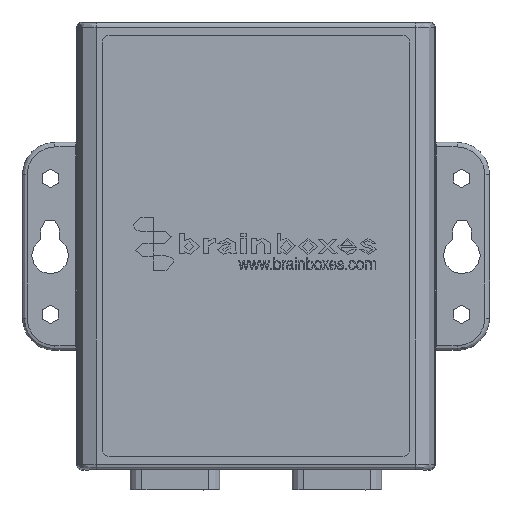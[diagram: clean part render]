
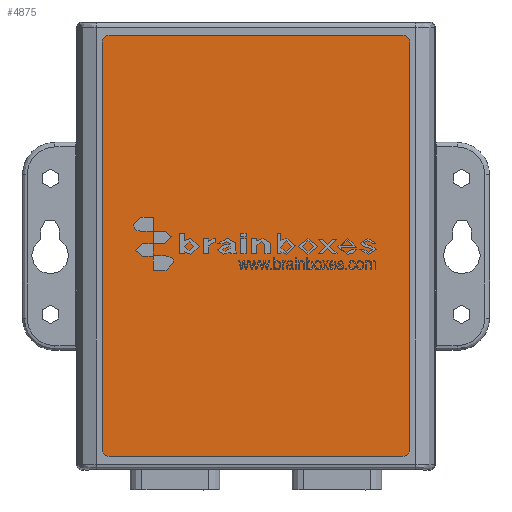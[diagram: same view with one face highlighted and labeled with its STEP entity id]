
A CAD part, top view. The second image highlights one B-rep face of the part: STEP entity #4875.
In plain terms, the highlighted planar face has unit normal (0, 0, 1) as drawn and (0, 1, 0) by its records, which use the part's own axes.
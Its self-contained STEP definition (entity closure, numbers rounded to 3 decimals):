
#4875=ADVANCED_FACE('',(#10045),#10046,.T.);
#10045=FACE_OUTER_BOUND('',#19004,.T.);
#10046=PLANE('',#19005);
#19004=EDGE_LOOP('',(#33505,#33506,#33507,#33508,#33509,#33510,#33511,#33512));
#19005=AXIS2_PLACEMENT_3D('',#33513,#33514,#33515);
#33505=ORIENTED_EDGE('',*,*,#42693,.T.);
#33506=ORIENTED_EDGE('',*,*,#42714,.T.);
#33507=ORIENTED_EDGE('',*,*,#42711,.T.);
#33508=ORIENTED_EDGE('',*,*,#42708,.T.);
#33509=ORIENTED_EDGE('',*,*,#42705,.T.);
#33510=ORIENTED_EDGE('',*,*,#42702,.T.);
#33511=ORIENTED_EDGE('',*,*,#42699,.T.);
#33512=ORIENTED_EDGE('',*,*,#42696,.T.);
#33513=CARTESIAN_POINT('',(-31.75,-0.5,44.05));
#33514=DIRECTION('',(0.0,1.0,0.0));
#33515=DIRECTION('',(1.0,0.0,-0.0));
#42693=EDGE_CURVE('',#51167,#51165,#51168,.T.);
#42696=EDGE_CURVE('',#51171,#51167,#51172,.T.);
#42699=EDGE_CURVE('',#51175,#51171,#51176,.T.);
#42702=EDGE_CURVE('',#51179,#51175,#51180,.T.);
#42705=EDGE_CURVE('',#51183,#51179,#51184,.T.);
#42708=EDGE_CURVE('',#51187,#51183,#51188,.T.);
#42711=EDGE_CURVE('',#51191,#51187,#51192,.T.);
#42714=EDGE_CURVE('',#51165,#51191,#51195,.T.);
#51165=VERTEX_POINT('',#63825);
#51167=VERTEX_POINT('',#63828);
#51168=CIRCLE('',#63829,1.5);
#51171=VERTEX_POINT('',#63833);
#51172=LINE('',#63834,#63835);
#51175=VERTEX_POINT('',#63839);
#51176=CIRCLE('',#63840,1.5);
#51179=VERTEX_POINT('',#63844);
#51180=LINE('',#63845,#63846);
#51183=VERTEX_POINT('',#63850);
#51184=CIRCLE('',#63851,1.5);
#51187=VERTEX_POINT('',#63855);
#51188=LINE('',#63856,#63857);
#51191=VERTEX_POINT('',#63861);
#51192=CIRCLE('',#63862,1.5);
#51195=LINE('',#63866,#63867);
#63825=CARTESIAN_POINT('',(-31.75,-0.5,45.55));
#63828=CARTESIAN_POINT('',(-33.25,-0.5,44.05));
#63829=AXIS2_PLACEMENT_3D('',#73122,#73123,#73124);
#63833=CARTESIAN_POINT('',(-33.25,-0.5,-44.05));
#63834=CARTESIAN_POINT('',(-33.25,-0.5,-44.05));
#63835=VECTOR('',#73126,1.0);
#63839=CARTESIAN_POINT('',(-31.75,-0.5,-45.55));
#63840=AXIS2_PLACEMENT_3D('',#73128,#73129,#73130);
#63844=CARTESIAN_POINT('',(31.75,-0.5,-45.55));
#63845=CARTESIAN_POINT('',(-31.75,-0.5,-45.55));
#63846=VECTOR('',#73132,1.0);
#63850=CARTESIAN_POINT('',(33.25,-0.5,-44.05));
#63851=AXIS2_PLACEMENT_3D('',#73134,#73135,#73136);
#63855=CARTESIAN_POINT('',(33.25,-0.5,44.05));
#63856=CARTESIAN_POINT('',(33.25,-0.5,-44.05));
#63857=VECTOR('',#73138,1.0);
#63861=CARTESIAN_POINT('',(31.75,-0.5,45.55));
#63862=AXIS2_PLACEMENT_3D('',#73140,#73141,#73142);
#63866=CARTESIAN_POINT('',(-31.75,-0.5,45.55));
#63867=VECTOR('',#73144,1.0);
#73122=CARTESIAN_POINT('',(-31.75,-0.5,44.05));
#73123=DIRECTION('',(0.0,1.0,0.0));
#73124=DIRECTION('',(0.0,-0.0,1.0));
#73126=DIRECTION('',(0.,0.0,1.0));
#73128=CARTESIAN_POINT('',(-31.75,-0.5,-44.05));
#73129=DIRECTION('',(0.0,1.0,0.0));
#73130=DIRECTION('',(0.0,0.0,-1.0));
#73132=DIRECTION('',(-1.0,0.0,0.0));
#73134=CARTESIAN_POINT('',(31.75,-0.5,-44.05));
#73135=DIRECTION('',(0.0,1.0,0.0));
#73136=DIRECTION('',(0.0,-0.0,1.0));
#73138=DIRECTION('',(0.,0.0,-1.0));
#73140=CARTESIAN_POINT('',(31.75,-0.5,44.05));
#73141=DIRECTION('',(0.0,1.0,0.0));
#73142=DIRECTION('',(0.0,-0.0,1.0));
#73144=DIRECTION('',(1.0,0.0,0.0));
